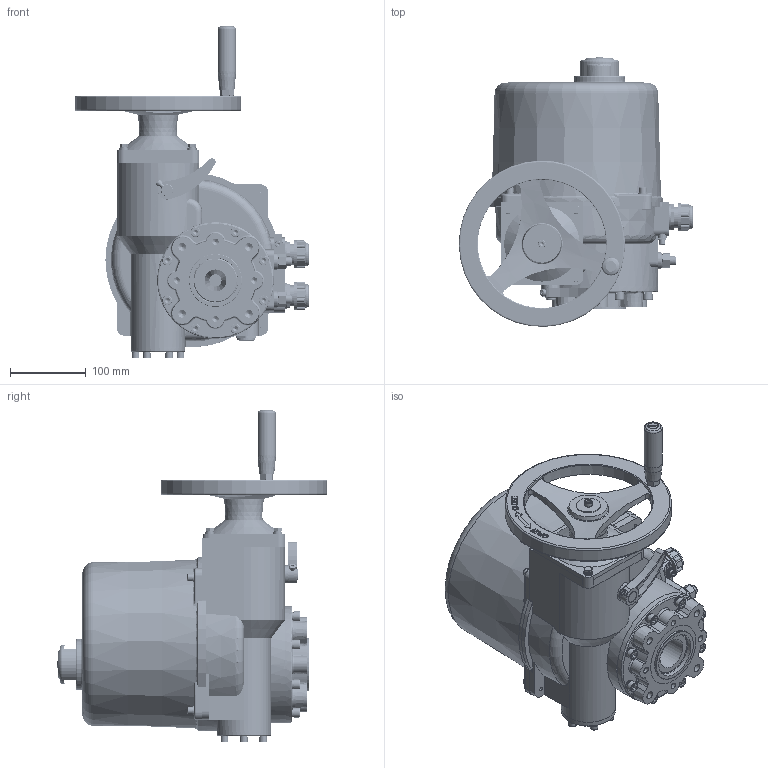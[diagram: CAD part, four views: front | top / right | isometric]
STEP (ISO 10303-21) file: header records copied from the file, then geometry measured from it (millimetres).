
FILE_DESCRIPTION(('STEP AP242'), '1');
FILE_NAME('8103', '', ('UNSPECIFIED'), ('UNSPECIFIED'), 'C3D Converter', 'C3D Toolkit', '');
FILE_SCHEMA(('AP242_MANAGED_MODEL_BASED_3D_ENGINEERING_MIM_LF { 1 0 10303 442 1 1 4 }'));
Length unit declared in the file: millimetre
Products named in the file (1): ГЗ-ОФ (М)
Bounding box: 309.85 x 357.1 x 439 mm (x, y, z)
Volume: 322402.9 mm3; surface area: 984024.1 mm2
Topology: 3 solids, 50 shells, 3565 faces, 10419 edges, 6936 vertices
Faces by surface type: plane 1369, cylinder 1283, cone 456, bspline 233, torus 211, sphere 13
Full cylindrical faces by diameter (mm): 3.242 x11, 3.545 x2, 4 x11, 4.134 x2, 4.2 x1, 4.3 x2, 4.5 x1, 4.917 x23, 5 x4, 5.3 x1, 5.459 x1, 6 x20, 6.2 x1, 6.3 x2, 6.4 x8, 6.5 x6, 6.647 x11, 7 x12, 7.5 x3, 8 x15, 8.376 x4, 8.5 x4, 8.9 x4, 9 x13, 9.5 x4, 10 x20, 10.106 x4, 10.2 x1, 10.5 x1, 11.3 x1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
Entity records: 225529 total; most frequent: CARTESIAN_POINT 106026, ORIENTED_EDGE 19314, DIRECTION 18197, EDGE_CURVE 9672, AXIS2_PLACEMENT_3D 7516, VERTEX_POINT 6820, EDGE_LOOP 4730, FACE_BOUND 4435
